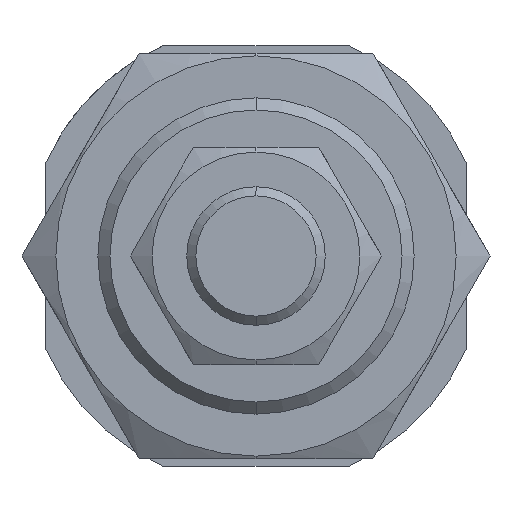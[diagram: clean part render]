
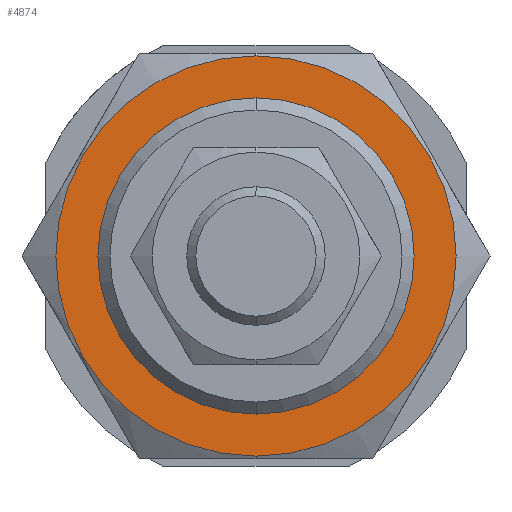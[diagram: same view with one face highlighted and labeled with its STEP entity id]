
A CAD part, left-side view. The second image highlights one B-rep face of the part: STEP entity #4874.
In plain terms, the highlighted planar face has unit normal (-1, 0, 0).
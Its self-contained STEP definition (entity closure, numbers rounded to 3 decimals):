
#1 = ORIENTED_EDGE ( 'NONE', *, *, #4049, .T. ) ;
#60 = DIRECTION ( 'NONE',  ( 0., 0., -1. ) ) ;
#71 = FACE_BOUND ( 'NONE', #4450, .T. ) ;
#98 = DIRECTION ( 'NONE',  ( 0., 1., 0. ) ) ;
#408 = DIRECTION ( 'NONE',  ( 1., 0., 0. ) ) ;
#506 = CIRCLE ( 'NONE', #1709, 16. ) ;
#671 = CIRCLE ( 'NONE', #3080, 20.25 ) ;
#832 = CIRCLE ( 'NONE', #2234, 20.25 ) ;
#864 = ORIENTED_EDGE ( 'NONE', *, *, #982, .T. ) ;
#924 = CARTESIAN_POINT ( 'NONE',  ( -13., 0., 0. ) ) ;
#982 = EDGE_CURVE ( 'NONE', #3976, #4858, #506, .T. ) ;
#1709 = AXIS2_PLACEMENT_3D ( 'NONE', #4876, #408, #60 ) ;
#1765 = AXIS2_PLACEMENT_3D ( 'NONE', #3610, #3227, #98 ) ;
#1808 = AXIS2_PLACEMENT_3D ( 'NONE', #924, #3602, #2239 ) ;
#1831 = PLANE ( 'NONE',  #1765 ) ;
#1834 = EDGE_CURVE ( 'NONE', #3358, #3119, #671, .T. ) ;
#2147 = CARTESIAN_POINT ( 'NONE',  ( -13., 0., 16. ) ) ;
#2197 = DIRECTION ( 'NONE',  ( 1., 0., 0. ) ) ;
#2227 = CARTESIAN_POINT ( 'NONE',  ( -13., 0., 20.25 ) ) ;
#2234 = AXIS2_PLACEMENT_3D ( 'NONE', #2746, #2719, #2770 ) ;
#2239 = DIRECTION ( 'NONE',  ( 0., 0., -1. ) ) ;
#2276 = FACE_OUTER_BOUND ( 'NONE', #4286, .T. ) ;
#2708 = CARTESIAN_POINT ( 'NONE',  ( -13., 0., -16. ) ) ;
#2719 = DIRECTION ( 'NONE',  ( 1., 0., 0. ) ) ;
#2746 = CARTESIAN_POINT ( 'NONE',  ( -13., 0., 0. ) ) ;
#2770 = DIRECTION ( 'NONE',  ( 0., 0., -1. ) ) ;
#2830 = CIRCLE ( 'NONE', #1808, 16. ) ;
#3080 = AXIS2_PLACEMENT_3D ( 'NONE', #4404, #2197, #3505 ) ;
#3119 = VERTEX_POINT ( 'NONE', #2227 ) ;
#3202 = ORIENTED_EDGE ( 'NONE', *, *, #4601, .F. ) ;
#3227 = DIRECTION ( 'NONE',  ( 1., 0., 0. ) ) ;
#3358 = VERTEX_POINT ( 'NONE', #3557 ) ;
#3505 = DIRECTION ( 'NONE',  ( 0., 0., -1. ) ) ;
#3557 = CARTESIAN_POINT ( 'NONE',  ( -13., 0., -20.25 ) ) ;
#3602 = DIRECTION ( 'NONE',  ( 1., 0., 0. ) ) ;
#3610 = CARTESIAN_POINT ( 'NONE',  ( -13., 0., 0. ) ) ;
#3976 = VERTEX_POINT ( 'NONE', #2147 ) ;
#4049 = EDGE_CURVE ( 'NONE', #4858, #3976, #2830, .T. ) ;
#4286 = EDGE_LOOP ( 'NONE', ( #5433, #3202 ) ) ;
#4404 = CARTESIAN_POINT ( 'NONE',  ( -13., 0., 0. ) ) ;
#4450 = EDGE_LOOP ( 'NONE', ( #864, #1 ) ) ;
#4601 = EDGE_CURVE ( 'NONE', #3119, #3358, #832, .T. ) ;
#4858 = VERTEX_POINT ( 'NONE', #2708 ) ;
#4874 = ADVANCED_FACE ( 'NONE', ( #2276, #71 ), #1831, .F. ) ;
#4876 = CARTESIAN_POINT ( 'NONE',  ( -13., 0., 0. ) ) ;
#5433 = ORIENTED_EDGE ( 'NONE', *, *, #1834, .F. ) ;
